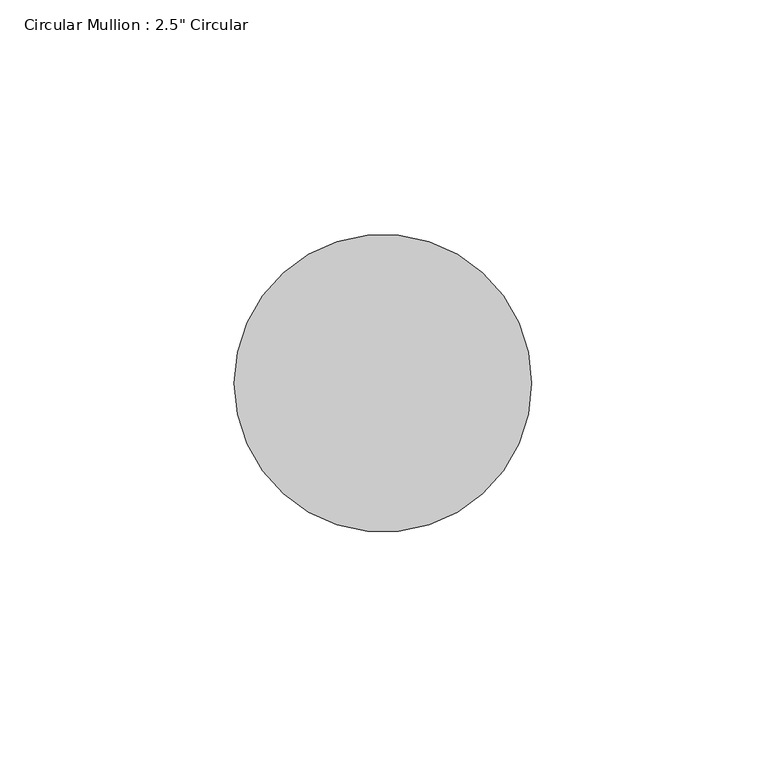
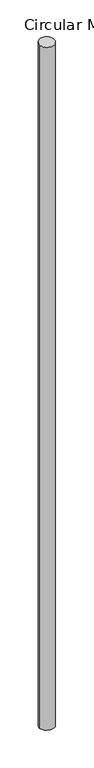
"""IFC4 building model written with IfcOpenShell, lengths in millimetres: member geometry."""

from ifc_helpers import new_model, si_unit, frame, origin, origin_with_axes, place, context, project, spatial, ellipse_curve, source, transform, mapped, element, save
from ifc_brep_helpers import plane_surface, cylinder_surface, advanced_brep


def member_76b62516(model_context):
    return source(origin(), model_context, "Body", "AdvancedBrep", [
        advanced_brep(
        [(-31.75, 0.0, -0.1317084), (31.75, 0.0, 0.1317084), (31.75, 0.0, -3045.6041175), (-31.75, 0.0, -3044.8662784)],
        [
            (0, 1, ellipse_curve(frame((0.0, 0.0, 0.0), z_axis=(0.0041399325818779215, 0.06333766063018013, -0.9979835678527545), x_axis=(0.06509219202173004, 0.9958585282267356, 0.06347281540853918)), 31.8141511, 31.75)),
            (1, 2),
            (2, 3, ellipse_curve(frame((0.0, 0.0, -3045.235198), z_axis=(0.011574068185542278, 0.08759527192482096, 0.9960889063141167), x_axis=(-0.13048034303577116, -0.9875059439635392, 0.08835661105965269)), 31.8746648, 31.75)),
            (3, 0),
            (1, 0, ellipse_curve(frame((0.0, 0.0, 0.0), z_axis=(0.0041399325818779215, 0.06333766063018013, -0.9979835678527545), x_axis=(0.06509219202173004, 0.9958585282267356, 0.06347281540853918)), 31.8141511, 31.75)),
            (3, 2, ellipse_curve(frame((0.0, 0.0, -3045.235198), z_axis=(0.011574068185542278, 0.08759527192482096, 0.9960889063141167), x_axis=(-0.13048034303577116, -0.9875059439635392, 0.08835661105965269)), 31.8746648, 31.75)),
        ],
        [
            cylinder_surface(origin_with_axes(), 31.75),
            plane_surface(frame((304.1509792, -19.8801872, 0.0), z_axis=(-0.004139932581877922, -0.06333766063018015, 0.9979835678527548), x_axis=(-0.06509219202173, -0.9958585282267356, -0.06347281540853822))),
            plane_surface(frame((302.1736411, -39.9265651, -3045.235198), z_axis=(-0.011574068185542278, -0.08759527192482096, -0.9960889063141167), x_axis=(-0.13048034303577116, -0.9875059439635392, 0.08835661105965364))),
        ],
        [
            (0, [[1, 2, 3, 4]]),
            (0, [[5, -4, 6, -2]]),
            (1, [[-1, -5]]),
            (2, [[-6, -3]]),
        ],
    ),
    ])


if __name__ == "__main__":
    model = new_model("IFC4")
    model_context = context("Model", 3, world=origin())
    ifc_project = project(units=[si_unit("LENGTHUNIT", "METRE", prefix="MILLI")], contexts=[model_context])
    site = spatial("IfcSite", under=ifc_project)
    building = spatial("IfcBuilding", under=site)
    placement = place(None, origin())
    member_shape = member_76b62516(model_context)
    element("IfcMember", 1, ObjectType="Circular Mullion : 2.5\" Circular", at=placement, inside=building, context=model_context, shape_type="MappedRepresentation", body=[
        mapped(member_shape, transform((0.0, 0.0, 0.0), x_axis=(1.0, 0.0, 0.0), y_axis=(0.0, 1.0, 0.0), z_axis=(0.0, 0.0, 1.0))),
    ])
    save(model, "model.ifc")
